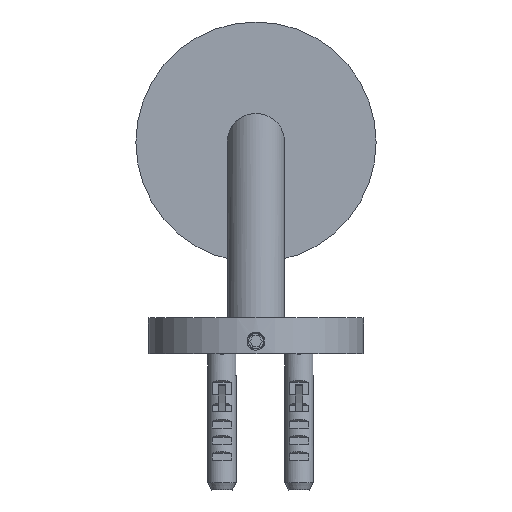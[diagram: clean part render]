
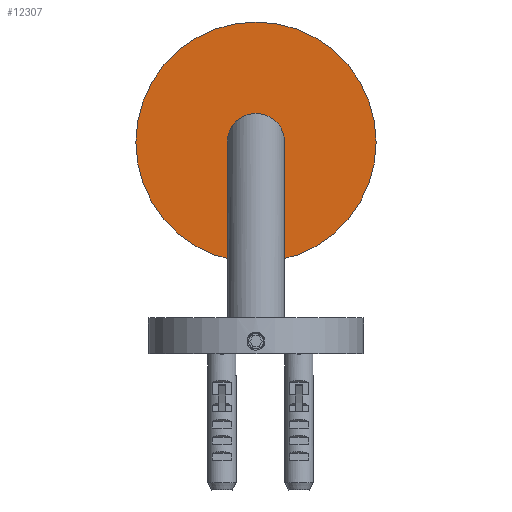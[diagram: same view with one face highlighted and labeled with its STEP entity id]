
A CAD part, front view. The second image highlights one B-rep face of the part: STEP entity #12307.
In plain terms, the highlighted planar face has unit normal (0, -1, 0).
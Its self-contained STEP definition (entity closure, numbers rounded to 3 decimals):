
#2864=FACE_BOUND('',#4255,.T.);
#3510=FACE_OUTER_BOUND('',#4254,.T.);
#4254=EDGE_LOOP('',(#11110,#11111));
#4255=EDGE_LOOP('',(#11112,#11113));
#4658=CIRCLE('',#13329,33.5);
#4659=CIRCLE('',#13330,33.5);
#4660=CIRCLE('',#13332,3.);
#4661=CIRCLE('',#13333,3.);
#5779=VERTEX_POINT('',#56773);
#5780=VERTEX_POINT('',#56774);
#5781=VERTEX_POINT('',#56779);
#5782=VERTEX_POINT('',#56780);
#7570=EDGE_CURVE('',#5779,#5780,#4658,.T.);
#7571=EDGE_CURVE('',#5780,#5779,#4659,.T.);
#7573=EDGE_CURVE('',#5781,#5782,#4660,.T.);
#7574=EDGE_CURVE('',#5782,#5781,#4661,.T.);
#11110=ORIENTED_EDGE('',*,*,#7570,.T.);
#11111=ORIENTED_EDGE('',*,*,#7571,.T.);
#11112=ORIENTED_EDGE('',*,*,#7573,.T.);
#11113=ORIENTED_EDGE('',*,*,#7574,.T.);
#11659=PLANE('',#13331);
#12307=ADVANCED_FACE('',(#3510,#2864),#11659,.T.);
#13329=AXIS2_PLACEMENT_3D('',#56775,#16109,#16110);
#13330=AXIS2_PLACEMENT_3D('',#56776,#16111,#16112);
#13331=AXIS2_PLACEMENT_3D('',#56778,#16114,#16115);
#13332=AXIS2_PLACEMENT_3D('',#56781,#16116,#16117);
#13333=AXIS2_PLACEMENT_3D('',#56782,#16118,#16119);
#16109=DIRECTION('center_axis',(0.,-1.,0.));
#16110=DIRECTION('ref_axis',(-1.,0.,0.));
#16111=DIRECTION('center_axis',(0.,-1.,0.));
#16112=DIRECTION('ref_axis',(-1.,0.,0.));
#16114=DIRECTION('center_axis',(0.,-1.,0.));
#16115=DIRECTION('ref_axis',(-1.,0.,0.));
#16116=DIRECTION('center_axis',(0.,1.,0.));
#16117=DIRECTION('ref_axis',(-1.,0.,0.));
#16118=DIRECTION('center_axis',(0.,1.,0.));
#16119=DIRECTION('ref_axis',(-1.,0.,0.));
#56773=CARTESIAN_POINT('',(-33.5,20.05,-145.15));
#56774=CARTESIAN_POINT('',(33.5,20.05,-145.15));
#56775=CARTESIAN_POINT('Origin',(0.,20.05,-145.15));
#56776=CARTESIAN_POINT('Origin',(0.,20.05,-145.15));
#56778=CARTESIAN_POINT('Origin',(0.,20.05,-145.15));
#56779=CARTESIAN_POINT('',(-3.,20.05,-145.15));
#56780=CARTESIAN_POINT('',(3.,20.05,-145.15));
#56781=CARTESIAN_POINT('Origin',(0.,20.05,-145.15));
#56782=CARTESIAN_POINT('Origin',(0.,20.05,-145.15));
